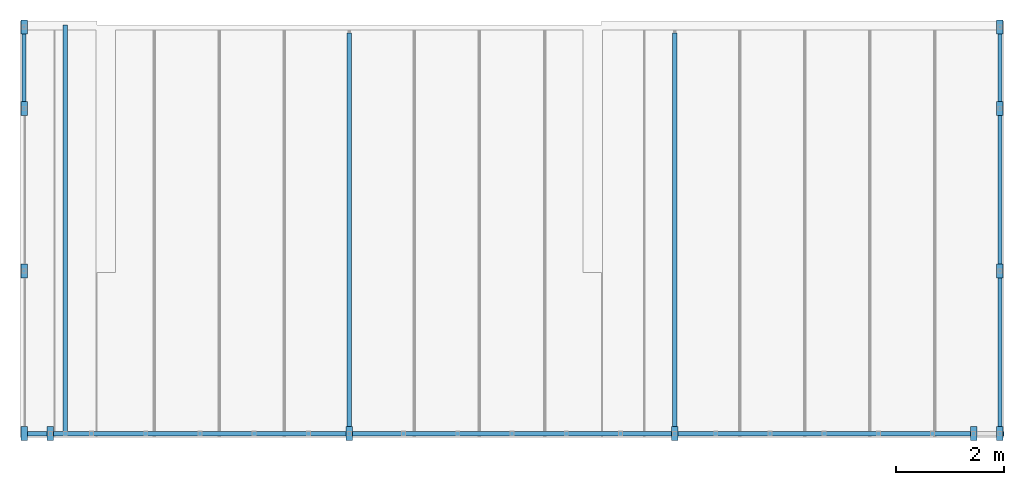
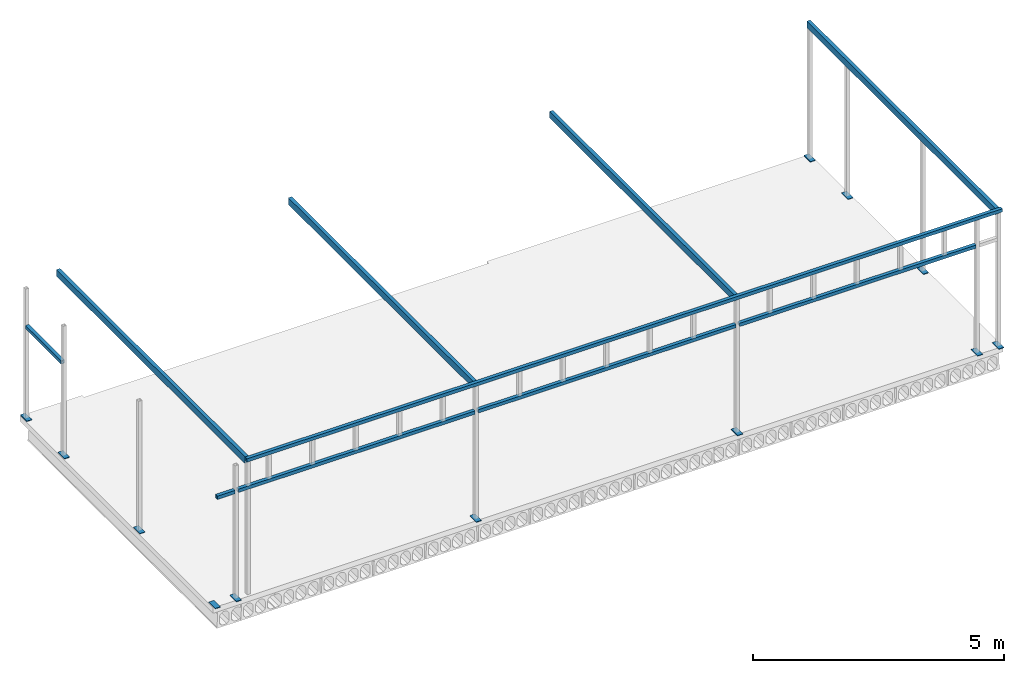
# One storey, part 3 of 20: 12 columns, 10 beams.
"""IFC2X3 building model written with IfcOpenShell, lengths in millimetres."""

from ifc_helpers import new_model, entity, si_unit, converted_unit, derived_unit, direction, frame, origin_with_axes, place, context, subcontext, project, spatial, faceted_brep, material, type_object, element, save


model = new_model("IFC2X3")

# Units and contexts
model_context = context("Model", 3, precision=0.01, world=frame((0.0, 4.29681676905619e-09, 0.0)), true_north=direction((4.01073788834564e-13, 1.0)))
plan_context = context("Plan", 3, precision=0.01, world=frame((0.0, 4.29681676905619e-09, 0.0)), true_north=direction((4.01073788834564e-13, 1.0)))
body_context = subcontext(model_context, "Body", "Model", "MODEL_VIEW")
ifc_project = project(units=[converted_unit("PLANEANGLEUNIT", "DEGREE", entity("IfcPositiveLengthMeasure", 0.0174532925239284), si_unit("PLANEANGLEUNIT", "RADIAN"), dimensions=[0, 0, 0, 0, 0, 0, 0]), si_unit("AREAUNIT", "SQUARE_METRE"), si_unit("LENGTHUNIT", "METRE", prefix="MILLI"), si_unit("MASSUNIT", "GRAM", prefix="KILO"), si_unit("POWERUNIT", "WATT"), si_unit("PRESSUREUNIT", "PASCAL", prefix="KILO"), si_unit("FORCEUNIT", "NEWTON", prefix="KILO"), si_unit("ELECTRICVOLTAGEUNIT", "VOLT"), si_unit("ELECTRICCURRENTUNIT", "AMPERE"), si_unit("THERMODYNAMICTEMPERATUREUNIT", "DEGREE_CELSIUS"), si_unit("TIMEUNIT", "SECOND"), si_unit("VOLUMEUNIT", "CUBIC_METRE"), derived_unit("LINEARVELOCITYUNIT", [(si_unit("LENGTHUNIT", "METRE"), 1), (si_unit("TIMEUNIT", "SECOND"), -1)]), derived_unit("VOLUMETRICFLOWRATEUNIT", [(si_unit("VOLUMEUNIT", "CUBIC_METRE"), 1), (si_unit("TIMEUNIT", "SECOND"), -1)]), derived_unit("THERMALTRANSMITTANCEUNIT", [(si_unit("POWERUNIT", "WATT"), 1), (si_unit("THERMODYNAMICTEMPERATUREUNIT", "KELVIN"), -1), (si_unit("AREAUNIT", "SQUARE_METRE"), -1)]), derived_unit("SOUNDPRESSUREUNIT", [(si_unit("PRESSUREUNIT", "PASCAL"), 1)])], contexts=[model_context, plan_context])

# Site, building, storey
site_placement = place(None, frame((0.0, -4.29681676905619e-09, 0.0), z_axis=(0.0, 0.0, 1.0), x_axis=(1.0, 0.0, 0.0)))
site = spatial("IfcSite", under=ifc_project, at=site_placement, Name="Gardermoen", CompositionType="ELEMENT")
building_placement = place(site_placement, frame((0.0, 4.29681676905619e-09, 0.0), z_axis=(0.0, 0.0, 1.0), x_axis=(1.0, 0.0, 0.0)))
building = spatial("IfcBuilding", under=site, at=building_placement, Name="TS", CompositionType="ELEMENT")
storey_placement = place(building_placement, origin_with_axes())
storey = spatial("IfcBuildingStorey", under=building, at=storey_placement, Name="D", CompositionType="ELEMENT", Elevation=0.0)

# Columns
ifc_material = material(Name="STEEL/S355")
column_type = type_object("IfcColumnType", Name="PL15*260", PredefinedType="NOTDEFINED")
for number, where, z_axis, x_axis in (
    (1, (613059.994834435, 405309.990871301, 203937.500000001), (9.99999902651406e-08, -0.99999999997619, 6.90000000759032e-06), (-0.999999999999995, -9.99999902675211e-08, 0.0)),
    (2, (595059.994834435, 405309.990851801, 203937.500000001), (9.99999902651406e-08, -0.99999999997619, 6.90000000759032e-06), (-0.999999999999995, -9.99999902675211e-08, 0.0)),
    (3, (595059.994834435, 403810.990851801, 203937.500000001), (9.99999902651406e-08, -0.99999999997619, 6.90000000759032e-06), (-0.999999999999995, -9.99999902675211e-08, 0.0)),
    (4, (595059.994834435, 400810.990851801, 203937.500000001), (9.99999902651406e-08, -0.99999999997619, 6.90000000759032e-06), (-0.999999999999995, -9.99999902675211e-08, 0.0)),
    (5, (613059.994834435, 403810.990871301, 203937.500000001), (9.99999902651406e-08, -0.99999999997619, 6.90000000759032e-06), (-0.999999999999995, -9.99999902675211e-08, 0.0)),
    (6, (613059.994834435, 400810.990871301, 203937.500000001), (9.99999902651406e-08, -0.99999999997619, 6.90000000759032e-06), (-0.999999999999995, -9.99999902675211e-08, 0.0)),
    (7, (612573.004834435, 397810.990908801, 203942.5), (9.99999902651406e-08, -0.99999999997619, 6.90000000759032e-06), (-0.999999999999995, -9.99999902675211e-08, 0.0)),
    (8, (595546.994834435, 397810.990851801, 203937.500000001), (9.99999902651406e-08, -0.99999999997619, 6.90000000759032e-06), (-0.999999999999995, -9.99999902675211e-08, 0.0)),
    (9, (613059.994834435, 397810.990877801, 203937.500000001), (9.99999902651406e-08, -0.99999999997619, 6.90000000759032e-06), (-0.999999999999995, -9.99999902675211e-08, 0.0)),
    (10, (607059.994834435, 397810.990851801, 203937.500000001), (9.99999902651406e-08, -0.99999999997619, 6.90000000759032e-06), (-0.999999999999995, -9.99999902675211e-08, 0.0)),
    (11, (601059.994834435, 397810.990851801, 203937.500000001), (9.99999902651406e-08, -0.99999999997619, 6.90000000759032e-06), (-0.999999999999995, -9.99999902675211e-08, 0.0)),
    (12, (595059.994834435, 397810.990851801, 203937.500000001), (9.99999902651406e-08, -0.99999999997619, 6.90000000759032e-06), (-0.999999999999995, -9.99999902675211e-08, 0.0)),
):
    element("IfcColumn", number, at=place(storey_placement, frame(where, z_axis=z_axis, x_axis=x_axis)), inside=storey, type_object=column_type, material=ifc_material, Name="STÅLSØYLE", ObjectType="PL15*260", context=body_context, shape_type="Brep", body=[
        faceted_brep([(0.0, 7.5, -130.0), (0.0, 7.5, 130.0), (120.0, 7.50000000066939, 130.000000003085), (120.0, 7.49999999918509, -130.000000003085), (0.0, -7.5, 130.0), (120.0, -7.4999999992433, 130.000000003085), (0.0, -7.5, -130.0), (120.0, -7.50000000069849, -130.000000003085)], [[[0, 1, 2, 3]], [[1, 4, 5, 2]], [[4, 6, 7, 5]], [[6, 0, 3, 7]], [[5, 7, 3, 2]], [[6, 4, 1, 0]]]),
    ])

# Beams
beam_type_1 = type_object("IfcBeamType", Name="RHS80*5", PredefinedType="NOTDEFINED")
beam_1_placement = place(storey_placement, frame((594999.996999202, 403851.005798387, 206170.0), z_axis=(0.0, 0.0, -1.0), x_axis=(0.0, 1.0, 0.0)))
element("IfcBeam", 13, at=beam_1_placement, inside=storey, type_object=beam_type_1, material=ifc_material, Name="STÅLBJELKE", ObjectType="RHS80*5", context=body_context, shape_type="Brep", body=[
    faceted_brep([(0.0, 35.0, -35.0), (0.0, -35.0, -35.0), (1419.00545683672, -35.0000000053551, -35.0), (1419.00545683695, 34.9999999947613, -35.0), (0.0, -35.0, 35.0), (1419.00545683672, -35.0000000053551, 35.0), (0.0, 35.0, 35.0), (1419.00545683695, 34.9999999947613, 35.0), (0.0, 40.0, -40.0), (0.0, 40.0, 40.0), (1419.00545683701, 39.9999999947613, 40.0), (1419.00545683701, 39.9999999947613, -40.0), (0.0, -40.0, 40.0), (1419.00545683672, -40.0000000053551, 40.0), (0.0, -40.0, -40.0), (1419.00545683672, -40.0000000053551, -40.0)], [[[0, 1, 2, 3]], [[1, 4, 5, 2]], [[4, 6, 7, 5]], [[6, 0, 3, 7]], [[8, 9, 10, 11]], [[9, 12, 13, 10]], [[12, 14, 15, 13]], [[14, 8, 11, 15]], [[13, 15, 11, 10], [5, 7, 3, 2]], [[14, 12, 9, 8], [6, 4, 1, 0]]]),
])
beam_2_placement = place(storey_placement, frame((607039.995426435, 397810.985130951, 206539.999718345), z_axis=(0.0, 0.0, -1.0), x_axis=(1.0, 0.0, 0.0)))
element("IfcBeam", 14, at=beam_2_placement, inside=storey, type_object=beam_type_1, material=ifc_material, Name="STÅLBJELKE", ObjectType="RHS80*5", context=body_context, shape_type="Brep", body=[
    faceted_brep([(0.0, 35.0, -35.0), (0.0, -35.0, -35.0), (5433.00940799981, -35.0, -35.0), (5433.00940799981, 35.0, -35.0), (0.0, -35.0, 35.0), (5433.00940799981, -35.0, 35.0), (0.0, 35.0, 35.0), (5433.00940799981, 35.0, 35.0), (0.0, 40.0, -40.0), (0.0, 40.0, 40.0), (5433.00940799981, 40.0, 40.0), (5433.00940799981, 40.0, -40.0), (0.0, -40.0, 40.0), (5433.00940799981, -40.0, 40.0), (0.0, -40.0, -40.0), (5433.00940799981, -40.0, -40.0)], [[[0, 1, 2, 3]], [[1, 4, 5, 2]], [[4, 6, 7, 5]], [[6, 0, 3, 7]], [[8, 9, 10, 11]], [[9, 12, 13, 10]], [[12, 14, 15, 13]], [[14, 8, 11, 15]], [[13, 15, 11, 10], [5, 7, 3, 2]], [[14, 12, 9, 8], [6, 4, 1, 0]]]),
])
beam_3_placement = place(storey_placement, frame((601039.994834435, 397810.985130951, 206539.999718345), z_axis=(0.0, 0.0, -1.0), x_axis=(1.0, 0.0, 0.0)))
element("IfcBeam", 15, at=beam_3_placement, inside=storey, type_object=beam_type_1, material=ifc_material, Name="STÅLBJELKE", ObjectType="RHS80*5", context=body_context, shape_type="Brep", body=[
    faceted_brep([(0.0, 35.0, -35.0), (0.0, -35.0, -35.0), (5920.0005920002, -35.0, -35.0), (5920.0005920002, 35.0, -35.0), (0.0, -35.0, 35.0), (5920.0005920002, -35.0, 35.0), (0.0, 35.0, 35.0), (5920.0005920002, 35.0, 35.0), (0.0, 40.0, -40.0), (0.0, 40.0, 40.0), (5920.0005920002, 40.0, 40.0), (5920.0005920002, 40.0, -40.0), (0.0, -40.0, 40.0), (5920.0005920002, -40.0, 40.0), (0.0, -40.0, -40.0), (5920.0005920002, -40.0, -40.0)], [[[0, 1, 2, 3]], [[1, 4, 5, 2]], [[4, 6, 7, 5]], [[6, 0, 3, 7]], [[8, 9, 10, 11]], [[9, 12, 13, 10]], [[12, 14, 15, 13]], [[14, 8, 11, 15]], [[13, 15, 11, 10], [5, 7, 3, 2]], [[14, 12, 9, 8], [6, 4, 1, 0]]]),
])
beam_4_placement = place(storey_placement, frame((595526.994834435, 397810.985130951, 206539.999718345), z_axis=(0.0, 0.0, -1.0), x_axis=(1.0, 0.0, 0.0)))
element("IfcBeam", 16, at=beam_4_placement, inside=storey, type_object=beam_type_1, material=ifc_material, Name="STÅLBJELKE", ObjectType="RHS80*5", context=body_context, shape_type="Brep", body=[
    faceted_brep([(0.0, 35.0, -35.0), (0.0, -35.0, -35.0), (5433.00940799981, -35.0, -35.0), (5433.00940799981, 35.0, -35.0), (0.0, -35.0, 35.0), (5433.00940799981, -35.0, 35.0), (0.0, 35.0, 35.0), (5433.00940799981, 35.0, 35.0), (0.0, 40.0, -40.0), (0.0, 40.0, 40.0), (5433.00940799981, 40.0, 40.0), (5433.00940799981, 40.0, -40.0), (0.0, -40.0, 40.0), (5433.00940799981, -40.0, 40.0), (0.0, -40.0, -40.0), (5433.00940799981, -40.0, -40.0)], [[[0, 1, 2, 3]], [[1, 4, 5, 2]], [[4, 6, 7, 5]], [[6, 0, 3, 7]], [[8, 9, 10, 11]], [[9, 12, 13, 10]], [[12, 14, 15, 13]], [[14, 8, 11, 15]], [[13, 15, 11, 10], [5, 7, 3, 2]], [[14, 12, 9, 8], [6, 4, 1, 0]]]),
])
beam_5_placement = place(storey_placement, frame((595040.00300338, 397810.985130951, 206539.999718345), z_axis=(0.0, 0.0, -1.0), x_axis=(1.0, 0.0, 0.0)))
element("IfcBeam", 17, at=beam_5_placement, inside=storey, type_object=beam_type_1, material=ifc_material, Name="STÅLBJELKE", ObjectType="RHS80*5", context=body_context, shape_type="Brep", body=[
    faceted_brep([(0.0, 35.0, -35.0), (0.0, -35.0, -35.0), (407.0, -35.0, -35.0), (407.0, 35.0, -35.0), (0.0, -35.0, 35.0), (407.0, -35.0, 35.0), (0.0, 35.0, 35.0), (407.0, 35.0, 35.0), (0.0, 40.0, -40.0), (0.0, 40.0, 40.0), (407.0, 40.0, 40.0), (407.0, 40.0, -40.0), (0.0, -40.0, 40.0), (407.0, -40.0, 40.0), (0.0, -40.0, -40.0), (407.0, -40.0, -40.0)], [[[0, 1, 2, 3]], [[1, 4, 5, 2]], [[4, 6, 7, 5]], [[6, 0, 3, 7]], [[8, 9, 10, 11]], [[9, 12, 13, 10]], [[12, 14, 15, 13]], [[14, 8, 11, 15]], [[13, 15, 11, 10], [5, 7, 3, 2]], [[14, 12, 9, 8], [6, 4, 1, 0]]]),
])
beam_6_placement = place(storey_placement, frame((595721.00300338, 397810.985130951, 207209.999718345), z_axis=(0.0, 0.0, -1.0), x_axis=(1.0, 0.0, 0.0)))
element("IfcBeam", 18, at=beam_6_placement, inside=storey, type_object=beam_type_1, Name="STÅLBJELKE", ObjectType="RHS80*5", context=body_context, shape_type="Brep", body=[
    faceted_brep([(17353.4969966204, 35.0, -35.0), (17353.4969966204, -35.0, -35.0), (0.0, -35.0, -35.0), (0.0, 35.0, -35.0), (17353.4969966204, -35.0, 35.0), (0.0, -35.0, 35.0), (17353.4969966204, 35.0, 35.0), (0.0, 35.0, 35.0), (17353.4969966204, 40.0, -40.0), (17353.4969966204, 40.0, 40.0), (0.0, 40.0, 40.0), (0.0, 40.0, -40.0), (17353.4969966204, -40.0, 40.0), (0.0, -40.0, 40.0), (17353.4969966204, -40.0, -40.0), (0.0, -40.0, -40.0)], [[[0, 1, 2, 3]], [[1, 4, 5, 2]], [[4, 6, 7, 5]], [[6, 0, 3, 7]], [[8, 9, 10, 11]], [[9, 12, 13, 10]], [[12, 14, 15, 13]], [[14, 8, 11, 15]], [[11, 10, 13, 15], [3, 2, 5, 7]], [[14, 12, 9, 8], [6, 4, 1, 0]]], orient=[[False], [False], [False], [False], [False], [False], [False], [False], [False, False], [False, False]]),
])
beam_type_2 = type_object("IfcBeamType", Name="RHS160*80*5", PredefinedType="NOTDEFINED")
beam_7_placement = place(storey_placement, frame((613000.0, 397850.980579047, 207170.0), z_axis=(0.0, 0.0, -1.0), x_axis=(0.0, 1.0, 0.0)))
element("IfcBeam", 19, at=beam_7_placement, inside=storey, type_object=beam_type_2, material=ifc_material, Name="STÅLBJELKE", ObjectType="RHS160*80*5", context=body_context, shape_type="Brep", body=[
    faceted_brep([(1.74622982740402e-10, 34.9999999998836, -75.0), (-1.16415321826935e-10, -35.0000000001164, -75.0), (7499.02992627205, -35.0000000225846, -75.0), (7499.02992627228, 34.9999999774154, -75.0), (-1.16415321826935e-10, -35.0000000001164, 75.0), (7499.02992627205, -35.0000000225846, 75.0), (0.0, 35.0, 75.0), (7499.02992627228, 34.9999999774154, 75.0), (0.0, 40.0, -80.0), (0.0, 40.0, 80.0), (7499.02992627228, 39.9999999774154, 80.0), (7499.02992627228, 39.9999999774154, -80.0), (0.0, -40.0, 80.0), (7499.02992627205, -40.0000000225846, 80.0), (0.0, -40.0, -80.0), (7499.02992627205, -40.0000000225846, -80.0)], [[[0, 1, 2, 3]], [[1, 4, 5, 2]], [[4, 6, 7, 5]], [[6, 0, 3, 7]], [[8, 9, 10, 11]], [[9, 12, 13, 10]], [[12, 14, 15, 13]], [[14, 8, 11, 15]], [[13, 15, 11, 10], [5, 7, 3, 2]], [[14, 12, 9, 8], [6, 4, 1, 0]]]),
])
beam_8_placement = place(storey_placement, frame((607000.0, 397850.980579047, 207170.0), z_axis=(0.0, 0.0, -1.0), x_axis=(0.0, 1.0, 0.0)))
element("IfcBeam", 20, at=beam_8_placement, inside=storey, type_object=beam_type_2, material=ifc_material, Name="STÅLBJELKE", ObjectType="RHS160*80*5", context=body_context, shape_type="Brep", body=[
    faceted_brep([(1.74622982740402e-10, 34.9999999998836, -75.0), (-1.16415321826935e-10, -35.0000000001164, -75.0), (7348.99994127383, -35.0000000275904, -75.0), (7348.99994127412, 34.9999999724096, -75.0), (-1.16415321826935e-10, -35.0000000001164, 75.0), (7348.99994127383, -35.0000000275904, 75.0), (0.0, 35.0, 75.0), (7348.99994127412, 34.9999999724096, 75.0), (0.0, 40.0, -80.0), (0.0, 40.0, 80.0), (7348.99994127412, 39.9999999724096, 80.0), (7348.99994127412, 39.9999999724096, -80.0), (0.0, -40.0, 80.0), (7348.99994127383, -40.0000000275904, 80.0), (0.0, -40.0, -80.0), (7348.99994127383, -40.0000000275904, -80.0)], [[[0, 1, 2, 3]], [[1, 4, 5, 2]], [[4, 6, 7, 5]], [[6, 0, 3, 7]], [[8, 9, 10, 11]], [[9, 12, 13, 10]], [[12, 14, 15, 13]], [[14, 8, 11, 15]], [[13, 15, 11, 10], [5, 7, 3, 2]], [[14, 12, 9, 8], [6, 4, 1, 0]]]),
])
beam_9_placement = place(storey_placement, frame((595761.0, 397850.980579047, 207170.0), z_axis=(0.0, 0.0, -1.0), x_axis=(0.0, 1.0, 0.0)))
element("IfcBeam", 21, at=beam_9_placement, inside=storey, type_object=beam_type_2, material=ifc_material, Name="STÅLBJELKE", ObjectType="RHS160*80*5", context=body_context, shape_type="Brep", body=[
    faceted_brep([(1.74622982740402e-10, 34.9999999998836, -75.0), (-1.16415321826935e-10, -35.0000000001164, -75.0), (7499.02992627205, -35.0000000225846, -75.0), (7499.02992627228, 34.9999999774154, -75.0), (-1.16415321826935e-10, -35.0000000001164, 75.0), (7499.02992627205, -35.0000000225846, 75.0), (0.0, 35.0, 75.0), (7499.02992627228, 34.9999999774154, 75.0), (0.0, 40.0, -80.0), (0.0, 40.0, 80.0), (7499.02992627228, 39.9999999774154, 80.0), (7499.02992627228, 39.9999999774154, -80.0), (0.0, -40.0, 80.0), (7499.02992627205, -40.0000000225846, 80.0), (0.0, -40.0, -80.0), (7499.02992627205, -40.0000000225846, -80.0)], [[[0, 1, 2, 3]], [[1, 4, 5, 2]], [[4, 6, 7, 5]], [[6, 0, 3, 7]], [[8, 9, 10, 11]], [[9, 12, 13, 10]], [[12, 14, 15, 13]], [[14, 8, 11, 15]], [[13, 15, 11, 10], [5, 7, 3, 2]], [[14, 12, 9, 8], [6, 4, 1, 0]]]),
])
beam_10_placement = place(storey_placement, frame((601000.0, 397850.980579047, 207170.0), z_axis=(0.0, 0.0, -1.0), x_axis=(0.0, 1.0, 0.0)))
element("IfcBeam", 22, at=beam_10_placement, inside=storey, type_object=beam_type_2, material=ifc_material, Name="STÅLBJELKE", ObjectType="RHS160*80*5", context=body_context, shape_type="Brep", body=[
    faceted_brep([(1.74622982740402e-10, 34.9999999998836, -75.0), (-1.16415321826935e-10, -35.0000000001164, -75.0), (7348.99994127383, -35.0000000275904, -75.0), (7348.99994127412, 34.9999999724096, -75.0), (-1.16415321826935e-10, -35.0000000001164, 75.0), (7348.99994127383, -35.0000000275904, 75.0), (0.0, 35.0, 75.0), (7348.99994127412, 34.9999999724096, 75.0), (0.0, 40.0, -80.0), (0.0, 40.0, 80.0), (7348.99994127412, 39.9999999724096, 80.0), (7348.99994127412, 39.9999999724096, -80.0), (0.0, -40.0, 80.0), (7348.99994127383, -40.0000000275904, 80.0), (0.0, -40.0, -80.0), (7348.99994127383, -40.0000000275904, -80.0)], [[[0, 1, 2, 3]], [[1, 4, 5, 2]], [[4, 6, 7, 5]], [[6, 0, 3, 7]], [[8, 9, 10, 11]], [[9, 12, 13, 10]], [[12, 14, 15, 13]], [[14, 8, 11, 15]], [[13, 15, 11, 10], [5, 7, 3, 2]], [[14, 12, 9, 8], [6, 4, 1, 0]]]),
])

save(model, "model.ifc")
